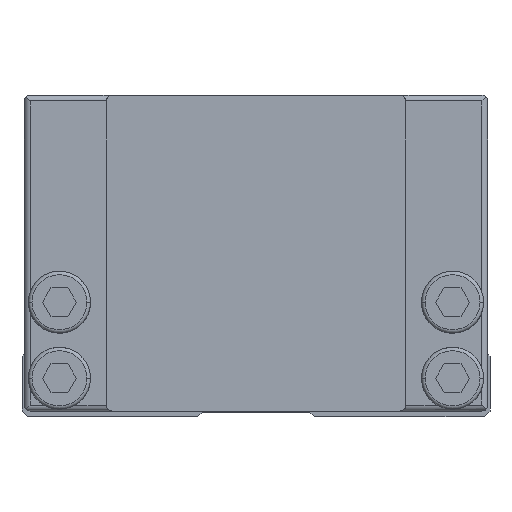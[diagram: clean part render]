
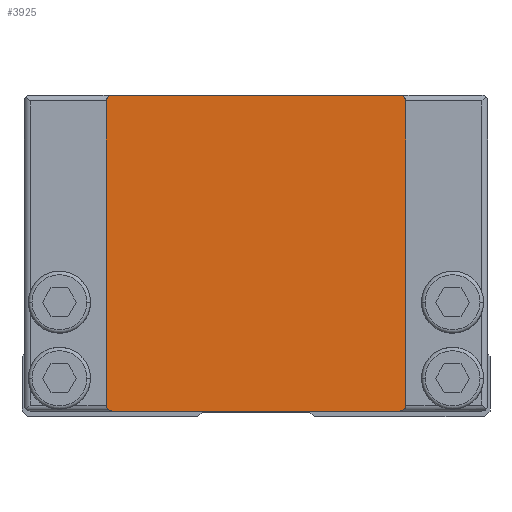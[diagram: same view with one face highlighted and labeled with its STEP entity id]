
A CAD part, front view. The second image highlights one B-rep face of the part: STEP entity #3925.
In plain terms, the highlighted planar face has unit normal (0, -1, 0).
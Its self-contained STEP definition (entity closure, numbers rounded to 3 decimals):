
#3867=VERTEX_POINT('',#11287);
#3925=ADVANCED_FACE('',(#11350),#11351,.T.);
#4305=EDGE_CURVE('',#8025,#8669,#11773,.T.);
#4755=VERTEX_POINT('',#12273);
#5769=VERTEX_POINT('',#13402);
#5773=EDGE_CURVE('',#4755,#9299,#13407,.T.);
#5799=EDGE_CURVE('',#5855,#4755,#13435,.T.);
#5855=VERTEX_POINT('',#13496);
#6103=EDGE_CURVE('',#9299,#5769,#13782,.T.);
#6169=EDGE_CURVE('',#3867,#9263,#13855,.T.);
#7865=EDGE_CURVE('',#5769,#3867,#15715,.T.);
#8025=VERTEX_POINT('',#15899);
#8461=EDGE_CURVE('',#8669,#5855,#16378,.T.);
#8669=VERTEX_POINT('',#16612);
#8737=EDGE_CURVE('',#9263,#8025,#16697,.T.);
#9263=VERTEX_POINT('',#17275);
#9299=VERTEX_POINT('',#17317);
#11287=CARTESIAN_POINT('',(12.3,0.0,27.5));
#11350=FACE_OUTER_BOUND('',#19631,.T.);
#11351=PLANE('',#19632);
#11773=CIRCLE('',#20247,0.5);
#12273=CARTESIAN_POINT('',(-12.8,0.0,1.0));
#13402=CARTESIAN_POINT('',(-12.3,0.0,27.5));
#13407=LINE('',#22603,#22604);
#13435=CIRCLE('',#22644,0.5);
#13496=CARTESIAN_POINT('',(-12.3,0.0,0.5));
#13782=CIRCLE('',#23113,0.5);
#13855=CIRCLE('',#23259,0.5);
#15715=LINE('',#25922,#25923);
#15899=CARTESIAN_POINT('',(12.8,0.0,1.0));
#16378=LINE('',#26904,#26905);
#16612=CARTESIAN_POINT('',(12.3,0.0,0.5));
#16697=LINE('',#27405,#27406);
#17275=CARTESIAN_POINT('',(12.8,0.0,27.0));
#17317=CARTESIAN_POINT('',(-12.8,0.0,27.0));
#19631=EDGE_LOOP('',(#31434,#31435,#31436,#31437,#31438,#31439,#31440,#31441));
#19632=AXIS2_PLACEMENT_3D('',#31442,#31443,#31444);
#20247=AXIS2_PLACEMENT_3D('',#31933,#31934,#31935);
#22603=CARTESIAN_POINT('',(-12.8,0.0,27.0));
#22604=VECTOR('',#33884,1.0);
#22644=AXIS2_PLACEMENT_3D('',#33909,#33910,#33911);
#23113=AXIS2_PLACEMENT_3D('',#34385,#34386,#34387);
#23259=AXIS2_PLACEMENT_3D('',#34461,#34462,#34463);
#25922=CARTESIAN_POINT('',(12.3,0.0,27.5));
#25923=VECTOR('',#36462,1.0);
#26904=CARTESIAN_POINT('',(-12.3,0.0,0.5));
#26905=VECTOR('',#37263,1.0);
#27405=CARTESIAN_POINT('',(12.8,0.0,1.0));
#27406=VECTOR('',#37649,1.0);
#31434=ORIENTED_EDGE('',*,*,#5773,.F.);
#31435=ORIENTED_EDGE('',*,*,#5799,.F.);
#31436=ORIENTED_EDGE('',*,*,#8461,.F.);
#31437=ORIENTED_EDGE('',*,*,#4305,.F.);
#31438=ORIENTED_EDGE('',*,*,#8737,.F.);
#31439=ORIENTED_EDGE('',*,*,#6169,.F.);
#31440=ORIENTED_EDGE('',*,*,#7865,.F.);
#31441=ORIENTED_EDGE('',*,*,#6103,.F.);
#31442=CARTESIAN_POINT('',(0.,0.0,14.0));
#31443=DIRECTION('',(0.0,-1.0,0.0));
#31444=DIRECTION('',(1.0,0.0,0.0));
#31933=CARTESIAN_POINT('',(12.3,0.0,1.));
#31934=DIRECTION('',(-0.0,1.0,0.0));
#31935=DIRECTION('',(0.0,0.0,-1.0));
#33884=DIRECTION('',(0.0,0.0,1.0));
#33909=CARTESIAN_POINT('',(-12.3,0.0,1.));
#33910=DIRECTION('',(0.0,1.0,-0.0));
#33911=DIRECTION('',(-1.0,0.0,0.));
#34385=CARTESIAN_POINT('',(-12.3,0.0,27.0));
#34386=DIRECTION('',(0.0,1.0,-0.0));
#34387=DIRECTION('',(0.,0.0,1.0));
#34461=CARTESIAN_POINT('',(12.3,0.0,27.0));
#34462=DIRECTION('',(-0.0,1.0,0.0));
#34463=DIRECTION('',(1.0,0.0,0.));
#36462=DIRECTION('',(1.0,0.0,0.0));
#37263=DIRECTION('',(-1.0,0.0,-0.0));
#37649=DIRECTION('',(-0.0,0.0,-1.0));
